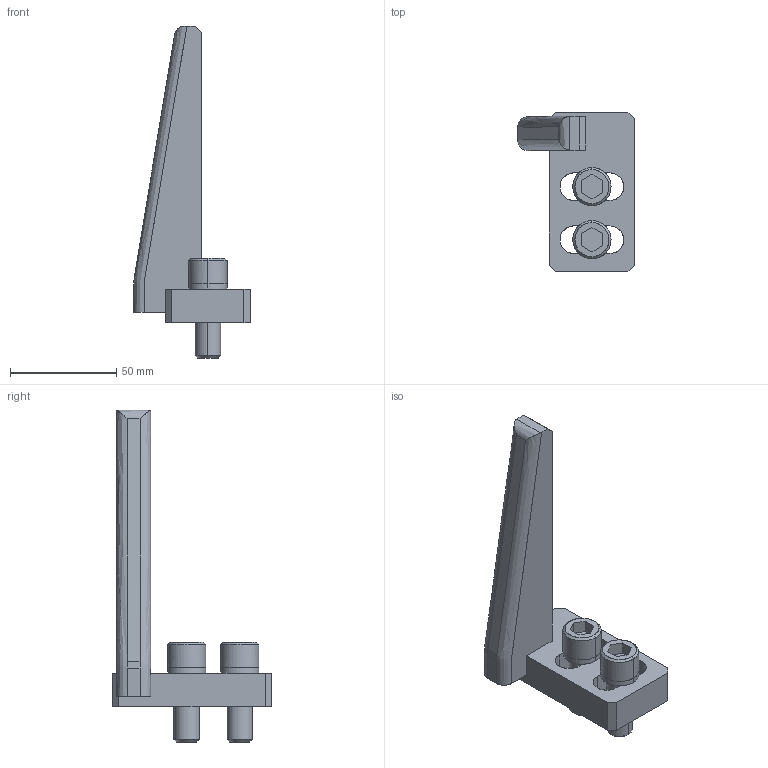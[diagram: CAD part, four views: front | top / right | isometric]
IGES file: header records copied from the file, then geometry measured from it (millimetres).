
Global section: file name: E:\UnigraphicsGraphicData\MISUMI_PRESS-PARTS\IGES\3d_nggbr-140-20-20_01496_r00.igs; native system: NX V5.0; preprocessor: UGS NX IGES V5.0; author: MISUMI; date: 20110105.162035; units: millimetre
Bounding box: 55 x 75 x 156.5 mm (x, y, z)
Surface area: 28250.9 mm2 (no closed solid volume)
Topology: 0 solids, 0 shells, 103 faces, 660 edges, 660 vertices
Faces by surface type: bspline 103
